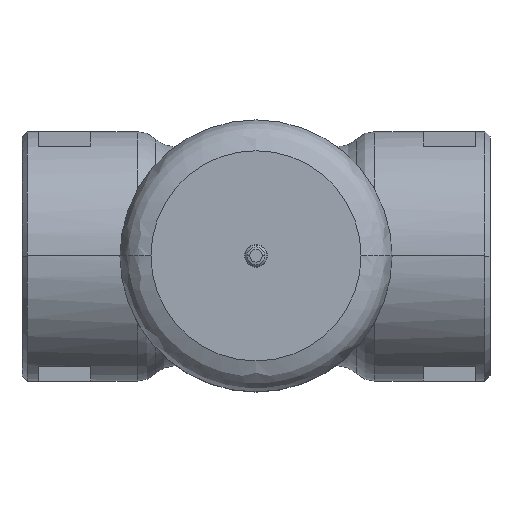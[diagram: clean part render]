
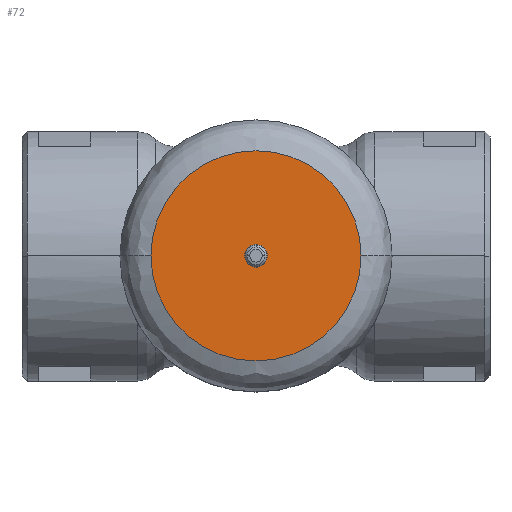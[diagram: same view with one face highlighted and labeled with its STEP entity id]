
A CAD part, top view. The second image highlights one B-rep face of the part: STEP entity #72.
In plain terms, the highlighted planar face has unit normal (0, 0, 1).
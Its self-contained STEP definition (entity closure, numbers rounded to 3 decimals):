
#72=ADVANCED_FACE('',(#489,#490),#488,.F.);
#488=PLANE('',#1626);
#489=FACE_OUTER_BOUND('',#1627,.T.);
#490=FACE_BOUND('',#1628,.T.);
#1623=CARTESIAN_POINT('',(46.473,-41.996,60.798));
#1624=DIRECTION('',(0.,0.,-1.));
#1625=DIRECTION('',(-1.,0.,0.));
#1626=AXIS2_PLACEMENT_3D('',#1623,#1624,#1625);
#1627=EDGE_LOOP('',(#2530,#2531));
#1628=EDGE_LOOP('',(#2532,#2533));
#2530=ORIENTED_EDGE('',*,*,#3095,.F.);
#2531=ORIENTED_EDGE('',*,*,#3096,.F.);
#2532=ORIENTED_EDGE('',*,*,#3097,.T.);
#2533=ORIENTED_EDGE('',*,*,#3098,.T.);
#3095=EDGE_CURVE('',#4113,#4114,#4115,.T.);
#3096=EDGE_CURVE('',#4114,#4113,#4121,.T.);
#3097=EDGE_CURVE('',#4127,#4128,#4129,.T.);
#3098=EDGE_CURVE('',#4128,#4127,#4135,.T.);
#4113=VERTEX_POINT('',#5990);
#4114=VERTEX_POINT('',#5991);
#4115=CIRCLE('',#5995,20.206);
#4121=CIRCLE('',#5999,20.206);
#4127=VERTEX_POINT('',#6000);
#4128=VERTEX_POINT('',#6001);
#4129=CIRCLE('',#6005,2.206);
#4135=CIRCLE('',#6009,2.206);
#5990=CARTESIAN_POINT('',(20.206,0.,60.798));
#5991=CARTESIAN_POINT('',(-20.206,0.,60.798));
#5992=CARTESIAN_POINT('',(0.,0.,60.798));
#5993=DIRECTION('',(0.,0.,-1.));
#5994=DIRECTION('',(-1.,0.,0.));
#5995=AXIS2_PLACEMENT_3D('',#5992,#5993,#5994);
#5996=CARTESIAN_POINT('',(0.,0.,60.798));
#5997=DIRECTION('',(0.,0.,-1.));
#5998=DIRECTION('',(-1.,0.,0.));
#5999=AXIS2_PLACEMENT_3D('',#5996,#5997,#5998);
#6000=CARTESIAN_POINT('',(-2.206,0.,60.798));
#6001=CARTESIAN_POINT('',(2.206,0.,60.798));
#6002=CARTESIAN_POINT('',(0.,0.,60.798));
#6003=DIRECTION('',(0.,0.,-1.));
#6004=DIRECTION('',(-1.,0.,0.));
#6005=AXIS2_PLACEMENT_3D('',#6002,#6003,#6004);
#6006=CARTESIAN_POINT('',(0.,0.,60.798));
#6007=DIRECTION('',(0.,0.,-1.));
#6008=DIRECTION('',(-1.,0.,0.));
#6009=AXIS2_PLACEMENT_3D('',#6006,#6007,#6008);
